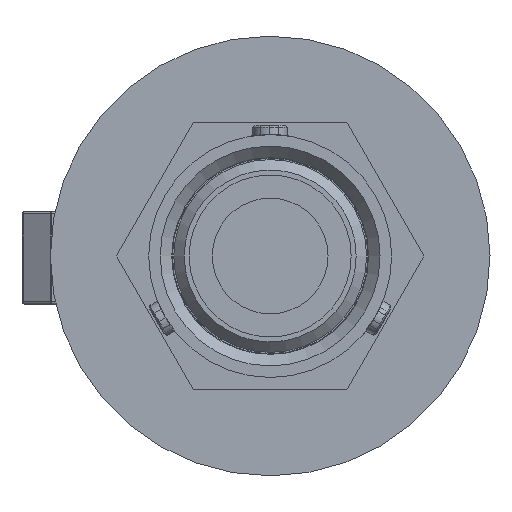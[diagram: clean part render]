
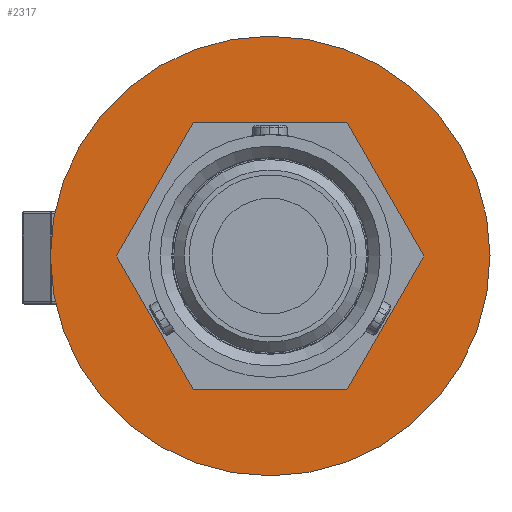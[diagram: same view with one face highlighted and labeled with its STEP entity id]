
A CAD part, front view. The second image highlights one B-rep face of the part: STEP entity #2317.
In plain terms, the highlighted planar face has unit normal (0, -1, 0).
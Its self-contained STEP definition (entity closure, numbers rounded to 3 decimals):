
#39 = EDGE_CURVE ( 'NONE', #1742, #1325, #3620, .T. ) ;
#114 = EDGE_LOOP ( 'NONE', ( #4063, #4086, #1535, #2207, #4077, #2268 ) ) ;
#151 = EDGE_CURVE ( 'NONE', #1325, #2002, #2620, .T. ) ;
#174 = CARTESIAN_POINT ( 'NONE',  ( -13.279, 165., 0. ) ) ;
#256 = EDGE_CURVE ( 'NONE', #1546, #3972, #1903, .T. ) ;
#268 = PLANE ( 'NONE',  #359 ) ;
#352 = DIRECTION ( 'NONE',  ( 0.768, 0., -0.641 ) ) ;
#359 = AXIS2_PLACEMENT_3D ( 'NONE', #4957, #1058, #3019 ) ;
#371 = CIRCLE ( 'NONE', #776, 19. ) ;
#388 = EDGE_CURVE ( 'NONE', #2002, #2457, #3271, .T. ) ;
#466 = CARTESIAN_POINT ( 'NONE',  ( -6.64, 165., 11.5 ) ) ;
#776 = AXIS2_PLACEMENT_3D ( 'NONE', #2712, #1966, #352 ) ;
#878 = DIRECTION ( 'NONE',  ( -0.5, 0., -0.866 ) ) ;
#914 = CARTESIAN_POINT ( 'NONE',  ( 6.64, 165., 11.5 ) ) ;
#965 = DIRECTION ( 'NONE',  ( -1., 0., 0. ) ) ;
#984 = VECTOR ( 'NONE', #2600, 1000. ) ;
#1031 = VECTOR ( 'NONE', #4076, 1000. ) ;
#1058 = DIRECTION ( 'NONE',  ( 0., 1., 0. ) ) ;
#1107 = CARTESIAN_POINT ( 'NONE',  ( 13.279, 165., 0. ) ) ;
#1243 = CARTESIAN_POINT ( 'NONE',  ( 6.64, 165., 11.5 ) ) ;
#1323 = CARTESIAN_POINT ( 'NONE',  ( 6.64, 165., -11.5 ) ) ;
#1325 = VERTEX_POINT ( 'NONE', #1107 ) ;
#1535 = ORIENTED_EDGE ( 'NONE', *, *, #388, .F. ) ;
#1546 = VERTEX_POINT ( 'NONE', #174 ) ;
#1742 = VERTEX_POINT ( 'NONE', #1323 ) ;
#1903 = LINE ( 'NONE', #4204, #3534 ) ;
#1966 = DIRECTION ( 'NONE',  ( 0., 1., 0. ) ) ;
#2002 = VERTEX_POINT ( 'NONE', #1243 ) ;
#2031 = CARTESIAN_POINT ( 'NONE',  ( 6.64, 165., -11.5 ) ) ;
#2161 = LINE ( 'NONE', #4922, #1031 ) ;
#2207 = ORIENTED_EDGE ( 'NONE', *, *, #151, .F. ) ;
#2268 = ORIENTED_EDGE ( 'NONE', *, *, #4983, .F. ) ;
#2317 = ADVANCED_FACE ( 'NONE', ( #3072, #4182 ), #268, .F. ) ;
#2457 = VERTEX_POINT ( 'NONE', #466 ) ;
#2512 = EDGE_CURVE ( 'NONE', #2457, #1546, #4313, .T. ) ;
#2600 = DIRECTION ( 'NONE',  ( -0.5, 0., 0.866 ) ) ;
#2620 = LINE ( 'NONE', #4174, #984 ) ;
#2712 = CARTESIAN_POINT ( 'NONE',  ( 0., 165., 0. ) ) ;
#2892 = EDGE_LOOP ( 'NONE', ( #3000 ) ) ;
#3000 = ORIENTED_EDGE ( 'NONE', *, *, #4233, .F. ) ;
#3019 = DIRECTION ( 'NONE',  ( 0.768, 0., -0.641 ) ) ;
#3052 = VECTOR ( 'NONE', #878, 1000. ) ;
#3072 = FACE_BOUND ( 'NONE', #114, .T. ) ;
#3166 = DIRECTION ( 'NONE',  ( 0.5, 0., 0.866 ) ) ;
#3271 = LINE ( 'NONE', #914, #4267 ) ;
#3534 = VECTOR ( 'NONE', #5026, 1000. ) ;
#3620 = LINE ( 'NONE', #2031, #3922 ) ;
#3662 = VERTEX_POINT ( 'NONE', #4825 ) ;
#3817 = CARTESIAN_POINT ( 'NONE',  ( -6.64, 165., -11.5 ) ) ;
#3922 = VECTOR ( 'NONE', #3166, 1000. ) ;
#3972 = VERTEX_POINT ( 'NONE', #3817 ) ;
#4063 = ORIENTED_EDGE ( 'NONE', *, *, #256, .F. ) ;
#4076 = DIRECTION ( 'NONE',  ( 1., 0., 0. ) ) ;
#4077 = ORIENTED_EDGE ( 'NONE', *, *, #39, .F. ) ;
#4086 = ORIENTED_EDGE ( 'NONE', *, *, #2512, .F. ) ;
#4174 = CARTESIAN_POINT ( 'NONE',  ( 13.279, 165., 0. ) ) ;
#4182 = FACE_OUTER_BOUND ( 'NONE', #2892, .T. ) ;
#4204 = CARTESIAN_POINT ( 'NONE',  ( -13.279, 165., 0. ) ) ;
#4233 = EDGE_CURVE ( 'NONE', #3662, #3662, #371, .T. ) ;
#4267 = VECTOR ( 'NONE', #965, 1000. ) ;
#4313 = LINE ( 'NONE', #4389, #3052 ) ;
#4389 = CARTESIAN_POINT ( 'NONE',  ( -6.64, 165., 11.5 ) ) ;
#4825 = CARTESIAN_POINT ( 'NONE',  ( 14.591, 165., -12.17 ) ) ;
#4922 = CARTESIAN_POINT ( 'NONE',  ( -6.64, 165., -11.5 ) ) ;
#4957 = CARTESIAN_POINT ( 'NONE',  ( 0., 165., 0. ) ) ;
#4983 = EDGE_CURVE ( 'NONE', #3972, #1742, #2161, .T. ) ;
#5026 = DIRECTION ( 'NONE',  ( 0.5, 0., -0.866 ) ) ;
